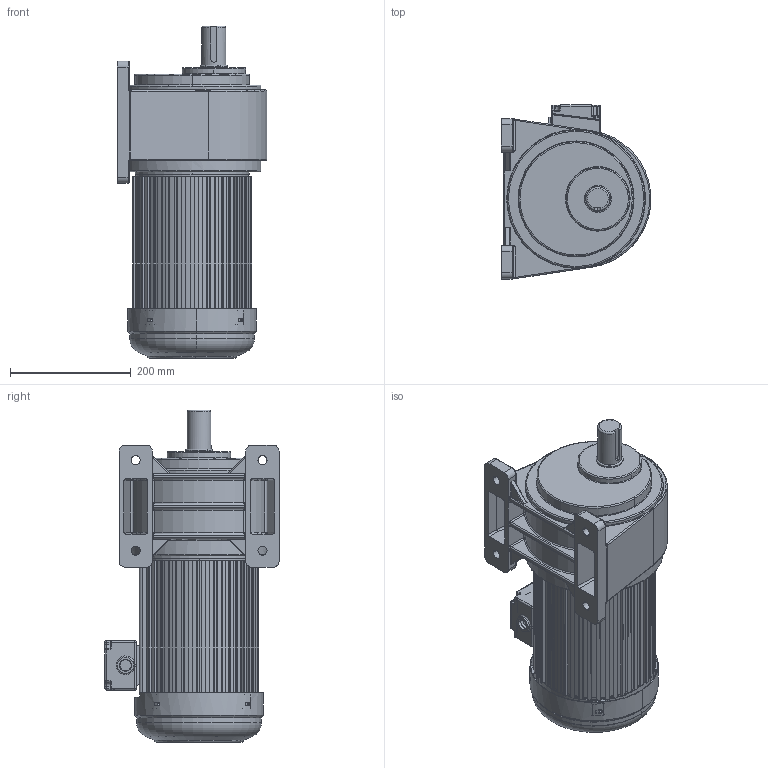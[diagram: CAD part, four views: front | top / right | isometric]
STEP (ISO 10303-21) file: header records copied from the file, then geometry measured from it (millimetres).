
FILE_DESCRIPTION(('HOOPS Exchange Step'),'2;1');
FILE_NAME('D:/ModelConvertServices/Model.003/TZT.New3D003/output/06e17a9b-f5d4-4837-9ad2-c201b9efe699/ZHN3700-S(Z)-3K-12.5K(15K-100K)(50轴）.step','2026-07-28T23:00:12+08:00',('SYSTEM'),('Unknown organisation'),'HOOPS Exchange 2024.3','HOOPS Exchange','Unknown authorisation');
FILE_SCHEMA( ('AP203_CONFIGURATION_CONTROLLED_3D_DESIGN_OF_MECHANICAL_PARTS_AND_ASSEMBLIES_MIM_LF') );
Length unit declared in the file: millimetre
Products named in the file (1): AdmiE513rs8o
Bounding box: 247.6 x 288.5 x 550 mm (x, y, z)
Volume: 15080004 mm3; surface area: 913709.3 mm2
Topology: 1 solids, 3 shells, 1851 faces, 5133 edges, 3275 vertices
Faces by surface type: plane 936, cylinder 683, torus 124, bspline 60, sphere 28, cone 20
Full cylindrical faces by diameter (mm): 40 x1, 45 x1, 180.5 x1, 228 x2
Entity records: 64511 total; most frequent: CARTESIAN_POINT 16252, ORIENTED_EDGE 10182, DIRECTION 9917, EDGE_CURVE 5091, VECTOR 3345, LINE 3345, AXIS2_PLACEMENT_3D 3286, VERTEX_POINT 3279
